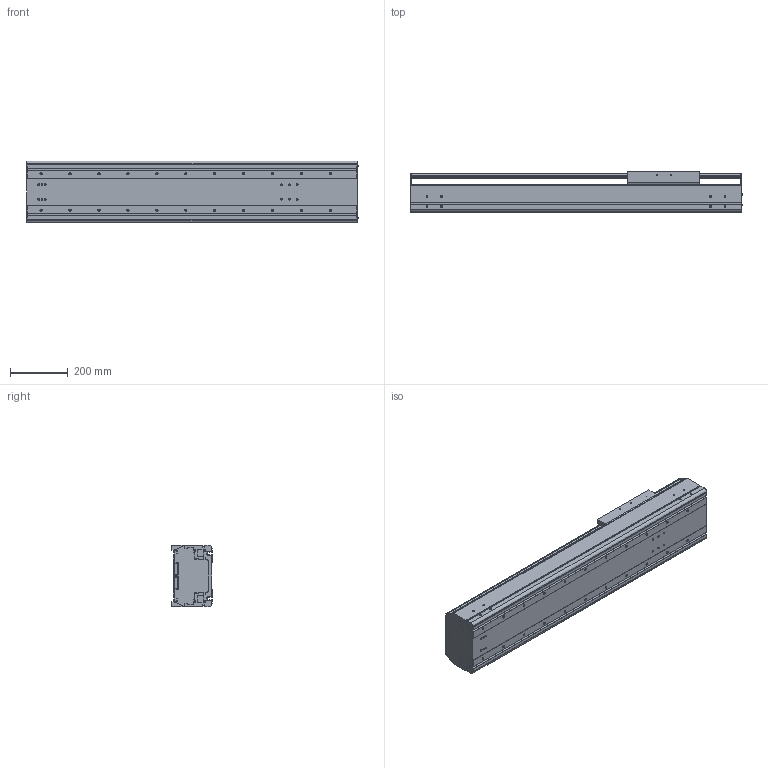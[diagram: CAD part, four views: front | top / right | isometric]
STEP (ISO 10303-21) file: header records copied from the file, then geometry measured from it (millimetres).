
FILE_DESCRIPTION((''),'2;1');
FILE_NAME('BE60G-ST-M_B-70_IGS_PRT','2017-06-18T',(' '),(''),'PRO/ENGINEER BY PARAMETRIC TECHNOLOGY CORPORATION, 2015030','PRO/ENGINEER BY PARAMETRIC TECHNOLOGY CORPORATION, 2015030','');
FILE_SCHEMA(('CONFIG_CONTROL_DESIGN'));
Length unit declared in the file: millimetre
Products named in the file (1): BE60G-ST-M_B-70_IGS_PRT
Bounding box: 1147.4 x 140 x 214 mm (x, y, z)
Volume: 9396967.4 mm3; surface area: 2502096.6 mm2
Topology: 2 solids, 126 shells, 1476 faces, 4102 edges, 2690 vertices
Faces by surface type: cylinder 736, plane 596, cone 96, sphere 24, torus 24
Entity records: 48845 total; most frequent: CARTESIAN_POINT 10639, DIRECTION 8100, ORIENTED_EDGE 7524, EDGE_CURVE 4006, AXIS2_PLACEMENT_3D 3005, VERTEX_POINT 2688, VECTOR 2090, LINE 2090
